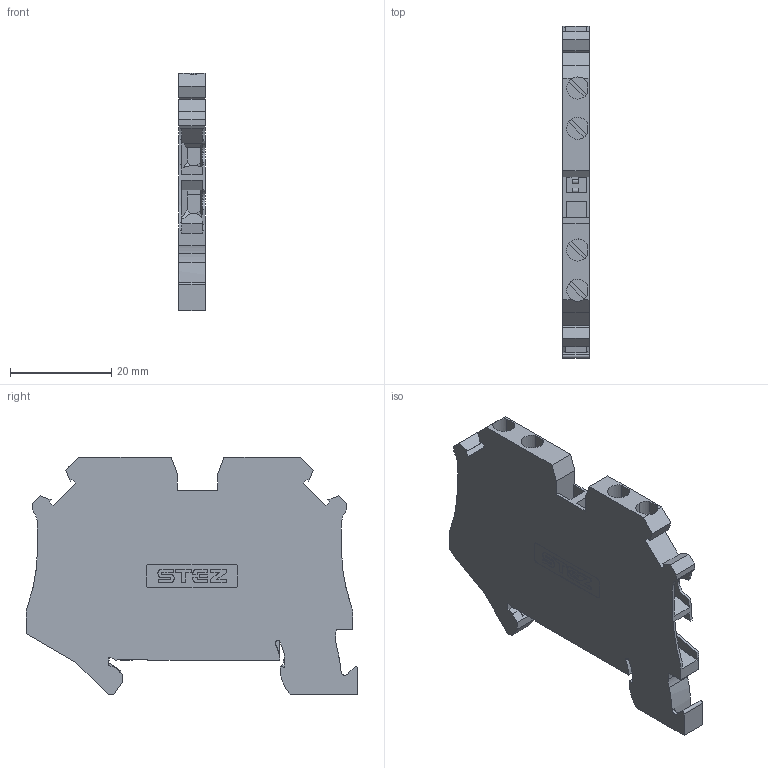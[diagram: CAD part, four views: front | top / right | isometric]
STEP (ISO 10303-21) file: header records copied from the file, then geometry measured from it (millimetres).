
FILE_DESCRIPTION(('TFLEX Exchange Step'),'2;1');
FILE_NAME('11000082_КНВ_2,5-4-PE.stp', '2024-04-27T16:19:16+03:00',('apanin'),('Unknown organisation'),'TFLEX Exchange 2023.2','T-FLEX CAD','Unknown authorisation');
FILE_SCHEMA( ('AUTOMOTIVE_DESIGN { 1 0 10303 214 1 1 1 1 }') );
Length unit declared in the file: millimetre
Products named in the file (1): Тело_1 - UT_2.5-QUATTRO-PE-select:1
Bounding box: 5.15 x 65.4 x 46.85 mm (x, y, z)
Volume: 10148.5 mm3; surface area: 7697 mm2
Topology: 1 solids, 1 shells, 472 faces, 1365 edges, 904 vertices
Faces by surface type: plane 266, cylinder 206
Entity records: 15915 total; most frequent: DIRECTION 2754, CARTESIAN_POINT 2746, ORIENTED_EDGE 2730, EDGE_CURVE 1365, AXIS2_PLACEMENT_3D 918, VECTOR 918, LINE 918, VERTEX_POINT 904
